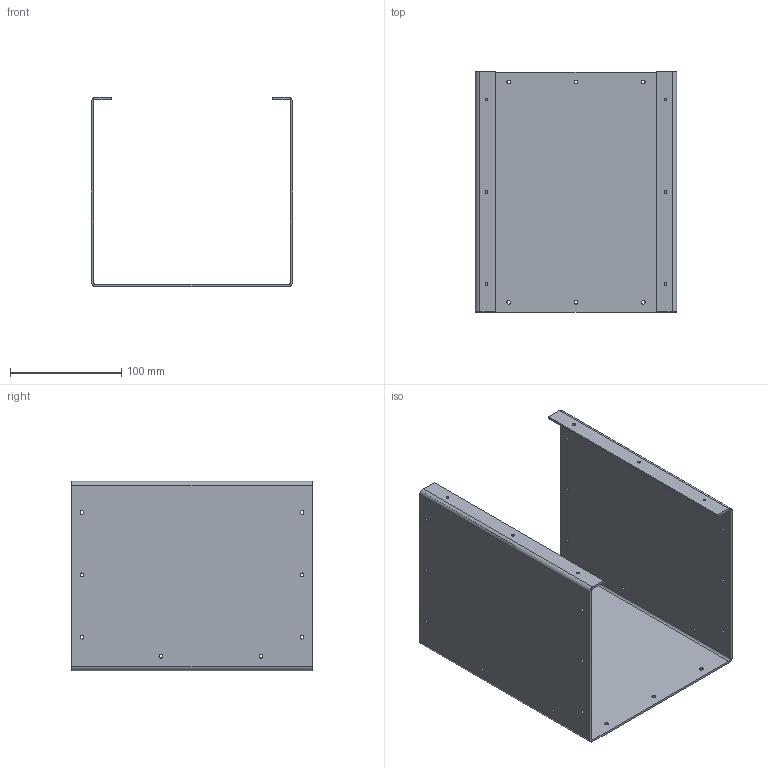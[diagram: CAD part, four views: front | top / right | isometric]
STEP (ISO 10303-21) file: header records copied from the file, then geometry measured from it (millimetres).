
FILE_DESCRIPTION(('FreeCAD Model'),'2;1');
FILE_NAME('Open CASCADE Shape Model','2026-06-08T10:03:12',('FreeCAD'),( 'FreeCAD'),'Open CASCADE STEP processor 7.8','FreeCAD','Unknown');
FILE_SCHEMA(('AUTOMOTIVE_DESIGN { 1 0 10303 214 1 1 1 1 }'));
Length unit declared in the file: millimetre
Products named in the file (1): Open CASCADE STEP translator 7.8 1
Bounding box: 180.9 x 216 x 170.27 mm (x, y, z)
Volume: 234299.1 mm3; surface area: 238646.4 mm2
Topology: 1 solids, 1 shells, 48 faces, 138 edges, 92 vertices
Faces by surface type: cylinder 34, plane 14
Full cylindrical faces by diameter (mm): 2.6 x6, 3.4 x22
Entity records: 1732 total; most frequent: DIRECTION 304, CARTESIAN_POINT 279, ORIENTED_EDGE 276, EDGE_CURVE 138, AXIS2_PLACEMENT_3D 117, FACE_BOUND 104, EDGE_LOOP 104, VERTEX_POINT 92
